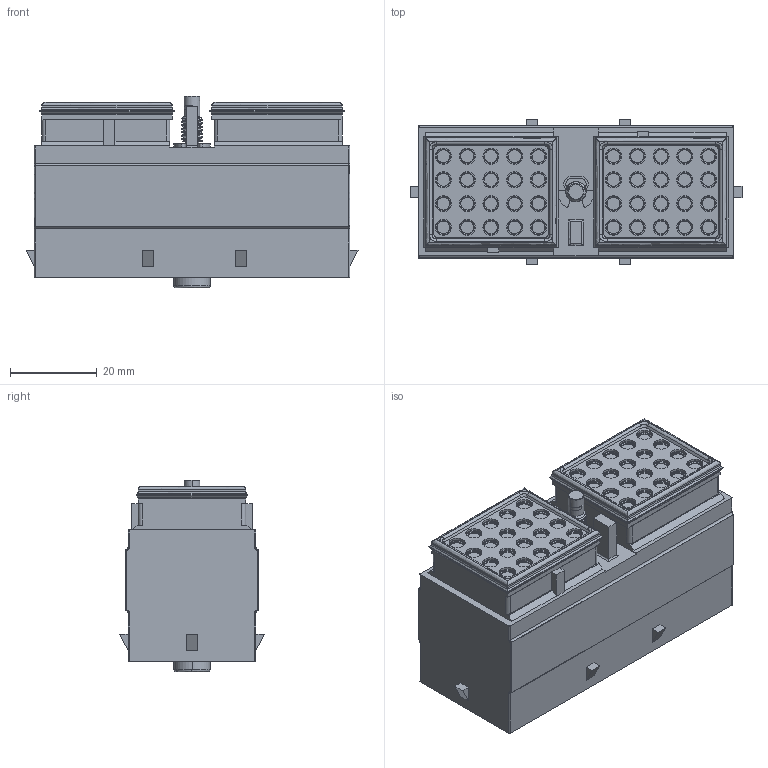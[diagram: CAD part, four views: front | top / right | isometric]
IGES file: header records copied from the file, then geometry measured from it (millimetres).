
Start section:  PTC IGES file: c-drc18-40sae-99-3d.igs
Global section: file name: c-drc18-40sae-99-3d.igs; native system: Pro/ENGINEER by Parametric Technology Corporation; preprocessor: 2010430; author: workeradm; organization: Unknown; units: millimetre
Bounding box: 76.66 x 33.32 x 44.32 mm (x, y, z)
Surface area: 15310 mm2 (no closed solid volume)
Topology: 0 solids, 0 shells, 1318 faces, 5976 edges, 5976 vertices
Faces by surface type: revolution 826, bspline 492
